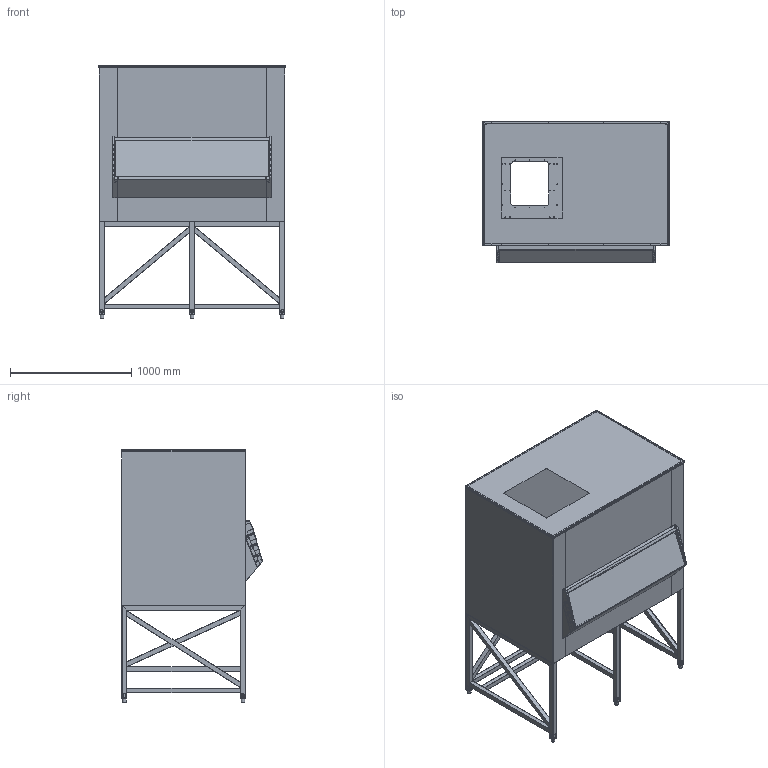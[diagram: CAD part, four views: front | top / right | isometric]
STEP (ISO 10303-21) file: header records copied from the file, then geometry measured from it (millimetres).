
FILE_DESCRIPTION(/* description */ ('Unknown'),/* implementation_level */ '2;1');
FILE_NAME(/* name */ 'SCD800',/* time_stamp */ '2018-04-24T12:02:46+02:00',/* author */ ('Unknown'),/* organization */ ('Unknown'),/* preprocessor_version */ 'ST-DEVELOPER v16.7',/* originating_system */ 'DEX',/* authorisation */ $);
FILE_SCHEMA (('CONFIG_CONTROL_DESIGN'));
Products named in the file (44): SCD800; SILO_SC800_oa_0; 42-92+SC800_oa_1; 42-91+SC800_oa_2; 42-30+SC800_oa_3; 42-108+30263; 42-108+30264; 42-110+30266; 42-101+8763; 42-109+30265; 42-104_oa_4; 42-31+8877; 42-47+8750; 42-36+8734; 42-102+8979; 42-102+8978; 42-96+8882_oa_5; 42-84+8758; 42-46+8865; 42-46+8864; 42-67_oa_6; tubo 40x40x1.5_oa_7; tubo 40x40x1.5_oa_8; tubo 40x40x1.5_oa_9; tubo 40x40x1.5_oa_10; tubo 40x40x1.5_oa_11; tubo 40x40x1.5_oa_12; tubo 40x40x1.5_oa_13; tubo 40x40x1.5_oa_14; tubo 40x40x1.5_oa_15; tubo 40x40x1.5_oa_16; tubo 40x40x1.5_oa_17; tubo 40x40x1.5_oa_18; tubo 40x40x1.5_oa_19; tubo 40x40x1.5_oa_20; tubo 40x40x1.5_oa_21; tubo 40x40x1.5_oa_22; tubo 40x40x1.5_oa_23; tubo 40x40x1.5_oa_24; tubo 40x40x1.5_oa_25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
Assembly tree (48 placements, depth 7):
  SCD800
    SILO_SC800_oa_0
      42-92+SC800_oa_1
        42-91+SC800_oa_2
          42-30+SC800_oa_3
            42-108+30263
            42-108+30264
            42-110+30266
            42-101+8763
            42-109+30265
            42-104_oa_4
              42-31+8877
        42-47+8750
        42-36+8734
        42-102+8979
        42-102+8978
      42-96+8882_oa_5
        42-84+8758
      42-46+8865
      42-46+8864
    42-67_oa_6
      tubo 40x40x1.5_oa_7
      tubo 40x40x1.5_oa_8
      tubo 40x40x1.5_oa_9
      tubo 40x40x1.5_oa_10
      tubo 40x40x1.5_oa_11
      tubo 40x40x1.5_oa_12
      tubo 40x40x1.5_oa_13
      tubo 40x40x1.5_oa_14
      tubo 40x40x1.5_oa_15
      tubo 40x40x1.5_oa_16
      tubo 40x40x1.5_oa_17
      tubo 40x40x1.5_oa_18
      tubo 40x40x1.5_oa_19
      tubo 40x40x1.5_oa_20
      tubo 40x40x1.5_oa_21
      tubo 40x40x1.5_oa_22
      tubo 40x40x1.5_oa_23
      tubo 40x40x1.5_oa_24
      tubo 40x40x1.5_oa_25
      tubo 40x40x1.5_oa_26
      tubo 40x40x1.5_oa_27
    42-35+8753
    30138+pata_reg_inox_tubo_40x40  x6
Bounding box: 1532.2 x 1162.9 x 2084 mm (x, y, z)
Volume: 13282335.1 mm3; surface area: 27997935.7 mm2
Topology: 41 solids, 41 shells, 3810 faces, 10333 edges, 6440 vertices
Faces by surface type: plane 1837, cylinder 1331, bspline 308, cone 160, sphere 152, torus 22
Full cylindrical faces by diameter (mm): 2.7 x20, 3.5 x30, 4 x8, 4.2 x74, 5 x54, 6 x2, 12 x4, 15 x3, 22 x5, 26 x6, 30 x6
Entity records: 106694 total; most frequent: CARTESIAN_POINT 24240, ORIENTED_EDGE 16730, DIRECTION 16472, EDGE_CURVE 8365, AXIS2_PLACEMENT_3D 5613, VERTEX_POINT 5423, LINE 5246, VECTOR 5246
